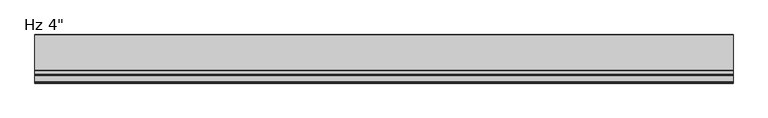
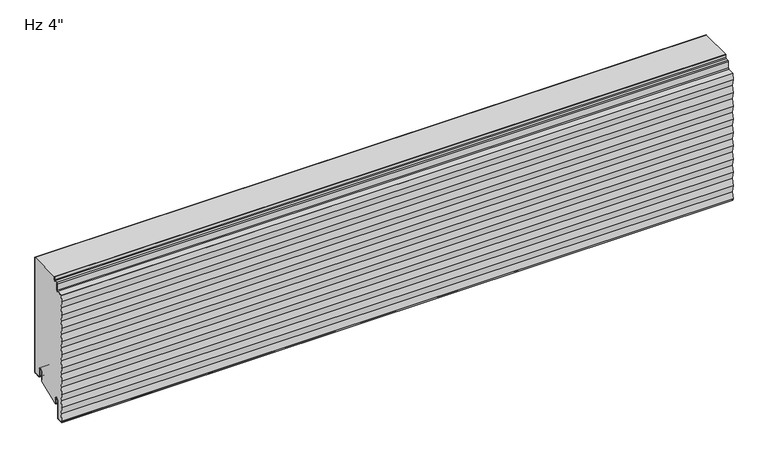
"""IFC4 building model written with IfcOpenShell, lengths in millimetres: plate geometry."""

from ifc_helpers import new_model, si_unit, point, frame, frame_2d, origin, place, context, project, spatial, polyline, circle_curve, trimmed, segment, composite_curve, outline, extrude, source, transform, mapped, element, save
from ifc_brep_helpers import plane_surface, cylinder_surface, revolved_surface, advanced_brep


def plate_10581ff8(model_context):
    return source(origin(), model_context, "Body", "SolidModel", [
        extrude(outline(composite_curve([segment(trimmed(circle_curve(frame_2d((-21.43125, 19.05)), 4.96875), [point((-16.4625, 19.05))], [point((-26.4, 19.05))], True, "CARTESIAN"), True, "CONTINUOUS"), segment(polyline([(-26.4, 19.05), (-26.4, -3.1323422), (-74.6157227, -23.01875), (-76.2, -23.01875), (-76.2, -13.5080174), (-76.99375, -13.5080174), (-76.7875, -11.9205174)]), True, "CONTINUOUS"), segment(trimmed(circle_curve(frame_2d((-81.75625, -11.9205174)), 4.96875), [point((-76.7875, -11.9205174))], [point((-86.725, -11.9205174))], True, "CARTESIAN"), True, "CONTINUOUS"), segment(polyline([(-86.725, -11.9205174), (-86.725, -50.1038221)]), True, "CONTINUOUS"), segment(trimmed(circle_curve(frame_2d((-88.10625, -50.1038221)), 1.38125), [point((-86.725, -50.1038221))], [point((-88.033961, -51.4831791))], False, "CARTESIAN"), True, "CONTINUOUS"), segment(polyline([(-88.033961, -51.4831791), (-99.146461, -52.0655606)]), True, "CONTINUOUS"), segment(trimmed(circle_curve(frame_2d((-99.21875, -50.6862035)), 1.38125), [point((-99.146461, -52.0655606))], [point((-100.5310452, -51.1171708))], False, "CARTESIAN"), True, "CONTINUOUS"), segment(polyline([(-100.5310452, -51.1171708), (-100.8936034, -48.8511825), (-98.4552034, -33.6111825), (-100.8936034, -18.3711825), (-98.4552034, -3.1311825), (-100.8936034, 12.1088175), (-98.4552034, 27.3488175), (-100.8936034, 42.5888175), (-98.4552034, 57.8288175), (-100.8936034, 73.0688175), (-98.4552034, 88.3088175), (-100.8936034, 103.5488175), (-98.4552034, 118.7888175), (-100.8936034, 134.0288175), (-98.4552034, 149.2688175), (-100.8936034, 164.5088175), (-98.4552034, 179.7488175), (-100.8936034, 194.9888175), (-98.4552034, 210.2288175), (-100.8611926, 225.26625), (-98.81595, 238.0490161), (-85.5895807, 238.7421807)]), True, "CONTINUOUS"), segment(trimmed(circle_curve(frame_2d((-85.725, 241.3261347)), 2.5875), [point((-85.5895807, 238.7421807))], [point((-83.1375, 241.3261347))], True, "CARTESIAN"), True, "CONTINUOUS"), segment(polyline([(-83.1375, 241.3261347), (-83.1375, 255.4824411)]), True, "CONTINUOUS"), segment(trimmed(circle_curve(frame_2d((-81.75625, 255.4824411)), 1.38125), [point((-83.1375, 255.4824411))], [point((-81.828539, 256.8617981))], False, "CARTESIAN"), True, "CONTINUOUS"), segment(polyline([(-81.828539, 256.8617981), (-76.0645807, 257.1638744)]), True, "CONTINUOUS"), segment(trimmed(circle_curve(frame_2d((-76.2, 259.7478283)), 2.5875), [point((-76.0645807, 257.1638744))], [point((-73.6125, 259.7478283))], True, "CARTESIAN"), True, "CONTINUOUS"), segment(polyline([(-73.6125, 259.7478283), (-73.6125, 266.4), (-1.0, 266.4), (-1.0, 3.175)]), True, "CONTINUOUS"), segment(trimmed(circle_curve(frame_2d((-2.38125, 3.175)), 1.38125), [point((-1.0, 3.175))], [point((-2.38125, 1.79375))], False, "CARTESIAN"), True, "CONTINUOUS"), segment(polyline([(-2.38125, 1.79375), (-15.08125, 1.79375)]), True, "CONTINUOUS"), segment(trimmed(circle_curve(frame_2d((-15.08125, 3.175)), 1.38125), [point((-15.08125, 1.79375))], [point((-16.4625, 3.175))], False, "CARTESIAN"), True, "CONTINUOUS"), segment(polyline([(-16.4625, 3.175), (-16.4625, 19.05)]), True, "CONTINUOUS")], self_intersect=False)), frame((-730.0, 0.0, 0.0), z_axis=(1.0, 0.0, 0.0), x_axis=(0.0, 1.0, 0.0)), (0.0, 0.0, 1.0), 1460.0),
        extrude(outline(composite_curve([segment(polyline([(-25.4, 0.79375), (-26.4, 0.79375), (-26.4, 19.05)]), True, "CONTINUOUS"), segment(trimmed(circle_curve(frame_2d((-21.43125, 19.05)), 4.96875), [point((-26.4, 19.05))], [point((-16.4625, 19.05))], False, "CARTESIAN"), True, "CONTINUOUS"), segment(polyline([(-16.4625, 19.05), (-16.4625, 3.175)]), True, "CONTINUOUS"), segment(trimmed(circle_curve(frame_2d((-15.08125, 3.175)), 1.38125), [point((-16.4625, 3.175))], [point((-15.08125, 1.79375))], True, "CARTESIAN"), True, "CONTINUOUS"), segment(polyline([(-15.08125, 1.79375), (-2.38125, 1.79375)]), True, "CONTINUOUS"), segment(trimmed(circle_curve(frame_2d((-2.38125, 3.175)), 1.38125), [point((-2.38125, 1.79375))], [point((-1.0, 3.175))], True, "CARTESIAN"), True, "CONTINUOUS"), segment(polyline([(-1.0, 3.175), (-1.0, 266.4), (0.0, 266.4), (0.0, 3.175)]), True, "CONTINUOUS"), segment(trimmed(circle_curve(frame_2d((-2.38125, 3.175)), 2.38125), [point((0.0, 3.175))], [point((-2.38125, 0.79375))], False, "CARTESIAN"), True, "CONTINUOUS"), segment(polyline([(-2.38125, 0.79375), (-15.08125, 0.79375)]), True, "CONTINUOUS"), segment(trimmed(circle_curve(frame_2d((-15.08125, 3.175)), 2.38125), [point((-15.08125, 0.79375))], [point((-17.4625, 3.175))], False, "CARTESIAN"), True, "CONTINUOUS"), segment(polyline([(-17.4625, 3.175), (-17.4625, 19.05)]), True, "CONTINUOUS"), segment(trimmed(circle_curve(frame_2d((-21.43125, 19.05)), 3.96875), [point((-17.4625, 19.05))], [point((-25.4, 19.05))], True, "CARTESIAN"), True, "CONTINUOUS"), segment(polyline([(-25.4, 19.05), (-25.4, 0.79375)]), True, "CONTINUOUS")], self_intersect=False)), frame((-730.0, 0.0, 0.0), z_axis=(1.0, 0.0, 0.0), x_axis=(0.0, 1.0, 0.0)), (0.0, 0.0, 1.0), 1460.0),
        advanced_brep(
        [(-730.0, -74.6125, 266.4), (730.0, -74.6125, 266.4), (730.0, -73.6125, 266.4), (-730.0, -73.6125, 266.4), (-730.0, -76.2, -23.2314549), (-730.0, -77.7875, -23.2314549), (-730.0, -77.7875, -11.9205174), (-730.0, -85.725, -11.9205174), (-730.0, -85.725, -50.1038221), (-730.0, -87.981625, -52.4818086), (-730.0, -100.913818, -53.1595562), (-730.0, -101.6, -48.8709186), (-730.0, -99.1616, -33.6309186), (-730.0, -101.6, -18.3909186), (-730.0, -99.1616, -3.1509186), (-730.0, -101.6, 12.0890814), (-730.0, -99.1616, 27.3290814), (-730.0, -101.6, 42.5690814), (-730.0, -99.1616, 57.8090814), (-730.0, -101.6, 73.0490814), (-730.0, -99.1616, 88.2890814), (-730.0, -101.6, 103.5290814), (-730.0, -99.1616, 118.7690814), (-730.0, -101.6, 134.0090814), (-730.0, -99.1616, 149.2490814), (-730.0, -101.6, 164.4890814), (-730.0, -99.1616, 179.7290814), (-730.0, -101.6, 194.9690814), (-730.0, -99.1616, 210.2090814), (-730.0, -101.5837946, 225.3477976), (-730.0, -99.4289309, 239.0182635), (-730.0, -85.6419167, 239.7408103), (-730.0, -84.1375, 241.3261347), (-730.0, -84.1375, 255.4824411), (-730.0, -81.880875, 257.8604276), (-730.0, -76.1169167, 258.1625039), (-730.0, -74.6125, 259.7478283), (-730.0, -73.6125, 259.7478283), (-730.0, -76.0645807, 257.1638744), (-730.0, -81.828539, 256.8617981), (-730.0, -83.1375, 255.4824411), (-730.0, -83.1375, 241.3261347), (-730.0, -85.5895807, 238.7421807), (-730.0, -98.5692225, 238.0619465), (-730.0, -100.5872809, 225.4490814), (-730.0, -98.1488809, 210.2090814), (-730.0, -100.5872809, 194.9690814), (-730.0, -98.1488809, 179.7290814), (-730.0, -100.5872809, 164.4890814), (-730.0, -98.1488809, 149.2490814), (-730.0, -100.5872809, 134.0090814), (-730.0, -98.1488809, 118.7690814), (-730.0, -100.5872809, 103.5290814), (-730.0, -98.1488809, 88.2890814), (-730.0, -100.5872809, 73.0490814), (-730.0, -98.1488809, 57.8090814), (-730.0, -100.5872809, 42.5690814), (-730.0, -98.1488809, 27.3290814), (-730.0, -100.5872809, 12.0890814), (-730.0, -98.1488809, -3.1509186), (-730.0, -100.5872809, -18.3909186), (-730.0, -98.1488809, -33.6309186), (-730.0, -100.5872809, -48.8709186), (-730.0, -100.0684074, -52.1138777), (-730.0, -88.033961, -51.4831791), (-730.0, -86.725, -50.1038221), (-730.0, -86.725, -11.9205174), (-730.0, -76.7875, -11.9205174), (-730.0, -76.99375, -13.5080174), (-730.0, -76.2, -13.5080174), (730.0, -76.2, -23.2314549), (730.0, -76.2, -13.5080174), (730.0, -76.99375, -13.5080174), (730.0, -76.7875, -11.9205174), (730.0, -86.725, -11.9205174), (730.0, -86.725, -50.1038221), (730.0, -88.033961, -51.4831791), (730.0, -100.0684074, -52.1138777), (730.0, -100.5872809, -48.8709186), (730.0, -98.1488809, -33.6309186), (730.0, -100.5872809, -18.3909186), (730.0, -98.1488809, -3.1509186), (730.0, -100.5872809, 12.0890814), (730.0, -98.1488809, 27.3290814), (730.0, -100.5872809, 42.5690814), (730.0, -98.1488809, 57.8090814), (730.0, -100.5872809, 73.0490814), (730.0, -98.1488809, 88.2890814), (730.0, -100.5872809, 103.5290814), (730.0, -98.1488809, 118.7690814), (730.0, -100.5872809, 134.0090814), (730.0, -98.1488809, 149.2490814), (730.0, -100.5872809, 164.4890814), (730.0, -98.1488809, 179.7290814), (730.0, -100.5872809, 194.9690814), (730.0, -98.1488809, 210.2090814), (730.0, -100.5710755, 225.3477976), (730.0, -98.5692225, 238.0619465), (730.0, -85.5895807, 238.7421807), (730.0, -83.1375, 241.3261347), (730.0, -83.1375, 255.4824411), (730.0, -81.828539, 256.8617981), (730.0, -76.0645807, 257.1638744), (730.0, -73.6125, 259.7478283), (730.0, -74.6125, 259.7478283), (730.0, -76.1169167, 258.1625039), (730.0, -81.880875, 257.8604276), (730.0, -84.1375, 255.4824411), (730.0, -84.1375, 241.3261347), (730.0, -85.6419167, 239.7408103), (730.0, -99.4289309, 239.0182635), (730.0, -101.6, 225.4490814), (730.0, -99.1616, 210.2090814), (730.0, -101.6, 194.9690814), (730.0, -99.1616, 179.7290814), (730.0, -101.6, 164.4890814), (730.0, -99.1616, 149.2490814), (730.0, -101.6, 134.0090814), (730.0, -99.1616, 118.7690814), (730.0, -101.6, 103.5290814), (730.0, -99.1616, 88.2890814), (730.0, -101.6, 73.0490814), (730.0, -99.1616, 57.8090814), (730.0, -101.6, 42.5690814), (730.0, -99.1616, 27.3290814), (730.0, -101.6, 12.0890814), (730.0, -99.1616, -3.1509186), (730.0, -101.6, -18.3909186), (730.0, -99.1616, -33.6309186), (730.0, -101.6, -48.8709186), (730.0, -100.913818, -53.1595562), (730.0, -87.981625, -52.4818086), (730.0, -85.725, -50.1038221), (730.0, -85.725, -11.9205174), (730.0, -77.7875, -11.9205174), (730.0, -77.7875, -23.2314549)],
        [
            (0, 1),
            (1, 2),
            (2, 3),
            (3, 0),
            (4, 5, circle_curve(frame((-730.0, -76.99375, -23.2314549), z_axis=(-1.0, 0.0, 0.0), x_axis=(0.0, 0.0, 1.0)), 0.79375)),
            (5, 6),
            (6, 7, circle_curve(frame((-730.0, -81.75625, -11.9205174), z_axis=(1.0, 0.0, 0.0), x_axis=(0.0, 0.0, 1.0)), 3.96875)),
            (7, 8),
            (8, 9, circle_curve(frame((-730.0, -88.10625, -50.1038221), z_axis=(-1.0, 0.0, 0.0), x_axis=(0.0, 0.0, 1.0)), 2.38125)),
            (9, 10),
            (10, 11),
            (11, 12),
            (12, 13),
            (13, 14),
            (14, 15),
            (15, 16),
            (16, 17),
            (17, 18),
            (18, 19),
            (19, 20),
            (20, 21),
            (21, 22),
            (22, 23),
            (23, 24),
            (24, 25),
            (25, 26),
            (26, 27),
            (27, 28),
            (28, 29),
            (29, 30),
            (30, 31),
            (31, 32, circle_curve(frame((-730.0, -85.725, 241.3261347), z_axis=(1.0, 0.0, 0.0), x_axis=(0.0, 0.0, 1.0)), 1.5875)),
            (32, 33),
            (33, 34, circle_curve(frame((-730.0, -81.75625, 255.4824411), z_axis=(-1.0, 0.0, 0.0), x_axis=(0.0, 0.0, 1.0)), 2.38125)),
            (34, 35),
            (35, 36, circle_curve(frame((-730.0, -76.2, 259.7478283), z_axis=(1.0, 0.0, 0.0), x_axis=(0.0, 0.0, 1.0)), 1.5875)),
            (36, 0),
            (3, 37),
            (37, 38, circle_curve(frame((-730.0, -76.2, 259.7478283), z_axis=(-1.0, 0.0, 0.0), x_axis=(0.0, 0.0, 1.0)), 2.5875)),
            (38, 39),
            (39, 40, circle_curve(frame((-730.0, -81.75625, 255.4824411), z_axis=(1.0, 0.0, 0.0), x_axis=(0.0, 0.0, 1.0)), 1.38125)),
            (40, 41),
            (41, 42, circle_curve(frame((-730.0, -85.725, 241.3261347), z_axis=(-1.0, 0.0, 0.0), x_axis=(0.0, 0.0, 1.0)), 2.5875)),
            (42, 43),
            (43, 44),
            (44, 45),
            (45, 46),
            (46, 47),
            (47, 48),
            (48, 49),
            (49, 50),
            (50, 51),
            (51, 52),
            (52, 53),
            (53, 54),
            (54, 55),
            (55, 56),
            (56, 57),
            (57, 58),
            (58, 59),
            (59, 60),
            (60, 61),
            (61, 62),
            (62, 63),
            (63, 64),
            (64, 65, circle_curve(frame((-730.0, -88.10625, -50.1038221), z_axis=(1.0, 0.0, 0.0), x_axis=(0.0, 0.0, 1.0)), 1.38125)),
            (65, 66),
            (66, 67, circle_curve(frame((-730.0, -81.75625, -11.9205174), z_axis=(-1.0, 0.0, 0.0), x_axis=(0.0, 0.0, 1.0)), 4.96875)),
            (67, 68),
            (68, 69),
            (69, 4),
            (70, 71),
            (71, 72),
            (72, 73),
            (73, 74, circle_curve(frame((730.0, -81.75625, -11.9205174), z_axis=(1.0, 0.0, 0.0), x_axis=(0.0, 0.0, 1.0)), 4.96875)),
            (74, 75),
            (75, 76, circle_curve(frame((730.0, -88.10625, -50.1038221), z_axis=(-1.0, 0.0, 0.0), x_axis=(0.0, 0.0, 1.0)), 1.38125)),
            (76, 77),
            (77, 78),
            (78, 79),
            (79, 80),
            (80, 81),
            (81, 82),
            (82, 83),
            (83, 84),
            (84, 85),
            (85, 86),
            (86, 87),
            (87, 88),
            (88, 89),
            (89, 90),
            (90, 91),
            (91, 92),
            (92, 93),
            (93, 94),
            (94, 95),
            (95, 96),
            (96, 97),
            (97, 98),
            (98, 99, circle_curve(frame((730.0, -85.725, 241.3261347), z_axis=(1.0, 0.0, 0.0), x_axis=(0.0, 0.0, 1.0)), 2.5875)),
            (99, 100),
            (100, 101, circle_curve(frame((730.0, -81.75625, 255.4824411), z_axis=(-1.0, 0.0, 0.0), x_axis=(0.0, 0.0, 1.0)), 1.38125)),
            (101, 102),
            (102, 103, circle_curve(frame((730.0, -76.2, 259.7478283), z_axis=(1.0, 0.0, 0.0), x_axis=(0.0, 0.0, 1.0)), 2.5875)),
            (103, 2),
            (1, 104),
            (104, 105, circle_curve(frame((730.0, -76.2, 259.7478283), z_axis=(-1.0, 0.0, 0.0), x_axis=(0.0, 0.0, 1.0)), 1.5875)),
            (105, 106),
            (106, 107, circle_curve(frame((730.0, -81.75625, 255.4824411), z_axis=(1.0, 0.0, 0.0), x_axis=(0.0, 0.0, 1.0)), 2.38125)),
            (107, 108),
            (108, 109, circle_curve(frame((730.0, -85.725, 241.3261347), z_axis=(-1.0, 0.0, 0.0), x_axis=(0.0, 0.0, 1.0)), 1.5875)),
            (109, 110),
            (110, 111),
            (111, 112),
            (112, 113),
            (113, 114),
            (114, 115),
            (115, 116),
            (116, 117),
            (117, 118),
            (118, 119),
            (119, 120),
            (120, 121),
            (121, 122),
            (122, 123),
            (123, 124),
            (124, 125),
            (125, 126),
            (126, 127),
            (127, 128),
            (128, 129),
            (129, 130),
            (130, 131),
            (131, 132, circle_curve(frame((730.0, -88.10625, -50.1038221), z_axis=(1.0, 0.0, 0.0), x_axis=(0.0, 0.0, 1.0)), 2.38125)),
            (132, 133),
            (133, 134, circle_curve(frame((730.0, -81.75625, -11.9205174), z_axis=(-1.0, 0.0, 0.0), x_axis=(0.0, 0.0, 1.0)), 3.96875)),
            (134, 135),
            (135, 70, circle_curve(frame((730.0, -76.99375, -23.2314549), z_axis=(1.0, 0.0, 0.0), x_axis=(0.0, 0.0, 1.0)), 0.79375)),
            (63, 77),
            (76, 64),
            (75, 65),
            (74, 66),
            (73, 67),
            (68, 72),
            (71, 69),
            (41, 99),
            (98, 42),
            (39, 101),
            (100, 40),
            (37, 103),
            (102, 38),
            (36, 104),
            (34, 106),
            (105, 35),
            (32, 108),
            (107, 33),
            (31, 109),
            (9, 131),
            (130, 10),
            (7, 133),
            (132, 8),
            (5, 135),
            (134, 6),
            (70, 4),
            (48, 92),
            (91, 49),
            (90, 50),
            (89, 51),
            (30, 110),
            (97, 43),
            (28, 112),
            (111, 29),
            (44, 96),
            (95, 45),
            (94, 46),
            (93, 47),
            (25, 115),
            (114, 26),
            (113, 27),
            (24, 116),
            (22, 118),
            (117, 23),
            (20, 120),
            (119, 21),
            (18, 122),
            (121, 19),
            (16, 124),
            (123, 17),
            (14, 126),
            (125, 15),
            (12, 128),
            (127, 13),
            (129, 11),
            (61, 79),
            (78, 62),
            (59, 81),
            (80, 60),
            (57, 83),
            (82, 58),
            (55, 85),
            (84, 56),
            (53, 87),
            (86, 54),
            (88, 52),
        ],
        [
            plane_surface(frame((730.0, 10.0, 266.4), z_axis=(0.0, 0.0, 1.0), x_axis=(-1.0, 0.0, 0.0))),
            plane_surface(frame((-730.0, -101.6, 152.4), z_axis=(-1.0, 0.0, 0.0), x_axis=(0.0, -1.0, 0.0))),
            plane_surface(frame((730.0, -101.6, 152.4), z_axis=(1.0, 0.0, 0.0), x_axis=(0.0, -1.0, 0.0))),
            plane_surface(frame((-730.0, -88.033961, -51.4831791), z_axis=(0.0, -0.052335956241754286, 0.9986295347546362), x_axis=(1.0, 0.0, 0.0))),
            revolved_surface(polyline([(730.0, -88.10625, -48.7225721), (-730.0, -88.10625, -48.7225721)]), (-730.0, -88.10625, -50.1038221), (1.0, 0.0, 0.0)),
            plane_surface(frame((-730.0, -86.725, -11.9205174), z_axis=(0.0, -1.0, 0.0), x_axis=(1.0, 0.0, 0.0))),
            cylinder_surface(frame((-730.0, -81.75625, -11.9205174), z_axis=(-1.0, 0.0, 0.0), x_axis=(0.0, 0.0, 1.0)), 4.96875),
            plane_surface(frame((-730.0, -76.2, -13.5080174), z_axis=(0.0, 0.0, 1.0), x_axis=(1.0, 0.0, 0.0))),
            plane_surface(frame((-730.0, -76.99375, -13.5080174), z_axis=(0.0, 0.9916655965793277, -0.12883844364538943), x_axis=(1.0, 0.0, 0.0))),
            cylinder_surface(frame((-730.0, -85.725, 241.3261347), z_axis=(-1.0, 0.0, 0.0), x_axis=(0.0, 0.0, 1.0)), 2.5875),
            revolved_surface(polyline([(730.0, -81.75625, 256.8636911), (-730.0, -81.75625, 256.8636911)]), (-730.0, -81.75625, 255.4824411), (1.0, 0.0, 0.0)),
            cylinder_surface(frame((-730.0, -76.2, 259.7478283), z_axis=(-1.0, 0.0, 0.0), x_axis=(0.0, 0.0, 1.0)), 2.5875),
            plane_surface(frame((-730.0, -81.828539, 256.8617981), z_axis=(0.0, 0.0523359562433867, -0.9986295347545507), x_axis=(1.0, 0.0, 0.0))),
            plane_surface(frame((-730.0, -83.1375, 241.3261347), z_axis=(0.0, 1.0, 0.0), x_axis=(1.0, 0.0, 0.0))),
            plane_surface(frame((-730.0, -73.6125, 259.7478283), z_axis=(0.0, 1.0, 0.0), x_axis=(1.0, 0.0, 0.0))),
            plane_surface(frame((-730.0, -74.6125, 274.6232326), z_axis=(0.0, -1.0, 0.0), x_axis=(1.0, 0.0, 0.0))),
            plane_surface(frame((-730.0, -76.1169167, 258.1625039), z_axis=(0.0, -0.052335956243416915, 0.9986295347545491), x_axis=(1.0, 0.0, 0.0))),
            revolved_surface(polyline([(730.0, -76.2, 261.33532829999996), (-730.0, -76.2, 261.33532829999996)]), (-730.0, -76.2, 259.7478283), (1.0, 0.0, 0.0)),
            plane_surface(frame((-730.0, -84.1375, 255.4824411), z_axis=(0.0, -1.0, 0.0), x_axis=(1.0, 0.0, 0.0))),
            revolved_surface(polyline([(730.0, -85.725, 242.91363470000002), (-730.0, -85.725, 242.91363470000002)]), (-730.0, -85.725, 241.3261347), (1.0, 0.0, 0.0)),
            cylinder_surface(frame((-730.0, -81.75625, 255.4824411), z_axis=(-1.0, 0.0, 0.0), x_axis=(0.0, 0.0, 1.0)), 2.38125),
            plane_surface(frame((-730.0, -100.913818, -53.1595562), z_axis=(0.0, 0.052335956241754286, -0.9986295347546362), x_axis=(1.0, 0.0, 0.0))),
            plane_surface(frame((-730.0, -85.725, -50.1038221), z_axis=(0.0, 1.0, 0.0), x_axis=(1.0, 0.0, 0.0))),
            plane_surface(frame((-730.0, -77.7875, -11.9205174), z_axis=(0.0, -1.0, 0.0), x_axis=(1.0, 0.0, 0.0))),
            revolved_surface(polyline([(730.0, -81.75625, -7.9517674), (-730.0, -81.75625, -7.9517674)]), (-730.0, -81.75625, -11.9205174), (1.0, 0.0, 0.0)),
            cylinder_surface(frame((-730.0, -88.10625, -50.1038221), z_axis=(-1.0, 0.0, 0.0), x_axis=(0.0, 0.0, 1.0)), 2.38125),
            plane_surface(frame((-730.0, -76.2, -23.2314549), z_axis=(0.0, 1.0, 0.0), x_axis=(1.0, 0.0, 0.0))),
            cylinder_surface(frame((-730.0, -76.99375, -23.2314549), z_axis=(-1.0, 0.0, 0.0), x_axis=(0.0, 0.0, 1.0)), 0.79375),
            plane_surface(frame((-730.0, -98.1488809, 149.2490814), z_axis=(0.0, 0.9874406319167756, 0.15799050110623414), x_axis=(1.0, 0.0, 0.0))),
            plane_surface(frame((-730.0, -100.5872809, 134.0090814), z_axis=(0.0, 0.987440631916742, -0.15799050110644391), x_axis=(1.0, 0.0, 0.0))),
            plane_surface(frame((-730.0, -98.1488809, 118.7690814), z_axis=(0.0, 0.987440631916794, 0.1579905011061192), x_axis=(1.0, 0.0, 0.0))),
            plane_surface(frame((-730.0, -85.6419167, 239.7408103), z_axis=(0.0, -0.052335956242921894, 0.998629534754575), x_axis=(1.0, 0.0, 0.0))),
            plane_surface(frame((-730.0, -98.5692225, 238.0619465), z_axis=(0.0, 0.05233595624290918, -0.9986295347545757), x_axis=(1.0, 0.0, 0.0))),
            plane_surface(frame((-730.0, -101.5837946, 225.3477976), z_axis=(0.0, -0.9874406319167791, -0.15799050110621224), x_axis=(1.0, 0.0, 0.0))),
            plane_surface(frame((-730.0, -98.1488809, 210.2090814), z_axis=(0.0, 0.9874406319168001, 0.15799050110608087), x_axis=(1.0, 0.0, 0.0))),
            plane_surface(frame((-730.0, -100.5872809, 194.9690814), z_axis=(0.0, 0.9874406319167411, -0.15799050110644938), x_axis=(1.0, 0.0, 0.0))),
            plane_surface(frame((-730.0, -98.1488809, 179.7290814), z_axis=(0.0, 0.987440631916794, 0.1579905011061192), x_axis=(1.0, 0.0, 0.0))),
            plane_surface(frame((-730.0, -100.5872809, 164.4890814), z_axis=(0.0, 0.987440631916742, -0.15799050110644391), x_axis=(1.0, 0.0, 0.0))),
            plane_surface(frame((-730.0, -99.1616, 179.7290814), z_axis=(0.0, -0.9874406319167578, 0.15799050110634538), x_axis=(1.0, 0.0, 0.0))),
            plane_surface(frame((-730.0, -101.6, 194.9690814), z_axis=(0.0, -0.9874406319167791, -0.15799050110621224), x_axis=(1.0, 0.0, 0.0))),
            plane_surface(frame((-730.0, -99.1616, 210.2090814), z_axis=(0.0, -0.9874406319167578, 0.15799050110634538), x_axis=(1.0, 0.0, 0.0))),
            plane_surface(frame((-730.0, -100.5872809, 225.4490814), z_axis=(0.0, 0.9874406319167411, -0.15799050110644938), x_axis=(1.0, 0.0, 0.0))),
            plane_surface(frame((-730.0, -99.4289309, 239.0182635), z_axis=(0.0, -0.9874406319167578, 0.15799050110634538), x_axis=(1.0, 0.0, 0.0))),
            plane_surface(frame((-730.0, -101.6, 164.4890814), z_axis=(0.0, -0.9874406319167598, -0.15799050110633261), x_axis=(1.0, 0.0, 0.0))),
            plane_surface(frame((-730.0, -101.6, 134.0090814), z_axis=(0.0, -0.9874406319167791, -0.15799050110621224), x_axis=(1.0, 0.0, 0.0))),
            plane_surface(frame((-730.0, -99.1616, 149.2490814), z_axis=(0.0, -0.9874406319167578, 0.15799050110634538), x_axis=(1.0, 0.0, 0.0))),
            plane_surface(frame((-730.0, -101.6, 103.5290814), z_axis=(0.0, -0.9874406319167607, -0.15799050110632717), x_axis=(1.0, 0.0, 0.0))),
            plane_surface(frame((-730.0, -101.6, 73.0490814), z_axis=(0.0, -0.9874406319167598, -0.15799050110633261), x_axis=(1.0, 0.0, 0.0))),
            plane_surface(frame((-730.0, -99.1616, 88.2890814), z_axis=(0.0, -0.9874406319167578, 0.15799050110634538), x_axis=(1.0, 0.0, 0.0))),
            plane_surface(frame((-730.0, -99.1616, 118.7690814), z_axis=(0.0, -0.9874406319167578, 0.15799050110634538), x_axis=(1.0, 0.0, 0.0))),
            plane_surface(frame((-730.0, -101.6, 42.5690814), z_axis=(0.0, -0.9874406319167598, -0.15799050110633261), x_axis=(1.0, 0.0, 0.0))),
            plane_surface(frame((-730.0, -101.6, 12.0890814), z_axis=(0.0, -0.9874406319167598, -0.15799050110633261), x_axis=(1.0, 0.0, 0.0))),
            plane_surface(frame((-730.0, -99.1616, 27.3290814), z_axis=(0.0, -0.9874406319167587, 0.15799050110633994), x_axis=(1.0, 0.0, 0.0))),
            plane_surface(frame((-730.0, -99.1616, 57.8090814), z_axis=(0.0, -0.9874406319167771, 0.157990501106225), x_axis=(1.0, 0.0, 0.0))),
            plane_surface(frame((-730.0, -101.6, -18.3909186), z_axis=(0.0, -0.9874406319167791, -0.15799050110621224), x_axis=(1.0, 0.0, 0.0))),
            plane_surface(frame((-730.0, -101.6, -48.8709186), z_axis=(0.0, -0.9874406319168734, -0.15799050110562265), x_axis=(1.0, 0.0, 0.0))),
            plane_surface(frame((-730.0, -99.1616, -33.6309186), z_axis=(0.0, -0.9874406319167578, 0.15799050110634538), x_axis=(1.0, 0.0, 0.0))),
            plane_surface(frame((-730.0, -99.1616, -3.1509186), z_axis=(0.0, -0.9874406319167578, 0.15799050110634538), x_axis=(1.0, 0.0, 0.0))),
            plane_surface(frame((-730.0, -100.5872809, -48.8709186), z_axis=(0.0, 0.9874406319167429, -0.15799050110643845), x_axis=(1.0, 0.0, 0.0))),
            plane_surface(frame((-730.0, -100.5872809, -18.3909186), z_axis=(0.0, 0.987440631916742, -0.15799050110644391), x_axis=(1.0, 0.0, 0.0))),
            plane_surface(frame((-730.0, -98.1488809, -33.6309186), z_axis=(0.0, 0.987440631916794, 0.1579905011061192), x_axis=(1.0, 0.0, 0.0))),
            plane_surface(frame((-730.0, -100.0684074, -52.1138777), z_axis=(0.0, 0.987440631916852, 0.1579905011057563), x_axis=(1.0, 0.0, 0.0))),
            plane_surface(frame((-730.0, -100.5872809, 12.0890814), z_axis=(0.0, 0.987440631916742, -0.15799050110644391), x_axis=(1.0, 0.0, 0.0))),
            plane_surface(frame((-730.0, -100.5872809, 42.5690814), z_axis=(0.0, 0.9874406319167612, -0.1579905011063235), x_axis=(1.0, 0.0, 0.0))),
            plane_surface(frame((-730.0, -98.1488809, 27.3290814), z_axis=(0.0, 0.9874406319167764, 0.15799050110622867), x_axis=(1.0, 0.0, 0.0))),
            plane_surface(frame((-730.0, -98.1488809, -3.1509186), z_axis=(0.0, 0.9874406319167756, 0.15799050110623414), x_axis=(1.0, 0.0, 0.0))),
            plane_surface(frame((-730.0, -100.5872809, 73.0490814), z_axis=(0.0, 0.9874406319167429, -0.15799050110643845), x_axis=(1.0, 0.0, 0.0))),
            plane_surface(frame((-730.0, -100.5872809, 103.5290814), z_axis=(0.0, 0.987440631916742, -0.15799050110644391), x_axis=(1.0, 0.0, 0.0))),
            plane_surface(frame((-730.0, -98.1488809, 88.2890814), z_axis=(0.0, 0.9874406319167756, 0.15799050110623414), x_axis=(1.0, 0.0, 0.0))),
            plane_surface(frame((-730.0, -98.1488809, 57.8090814), z_axis=(0.0, 0.9874406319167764, 0.15799050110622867), x_axis=(1.0, 0.0, 0.0))),
        ],
        [
            (0, [[1, 2, 3, 4]]),
            (1, [[5, 6, 7, 8, 9, 10, 11, 12, 13, 14, 15, 16, 17, 18, 19, 20, 21, 22, 23, 24, 25, 26, 27, 28, 29, 30, 31, 32, 33, 34, 35, 36, 37, -4, 38, 39, 40, 41, 42, 43, 44, 45, 46, 47, 48, 49, 50, 51, 52, 53, 54, 55, 56, 57, 58, 59, 60, 61, 62, 63, 64, 65, 66, 67, 68, 69, 70, 71]]),
            (2, [[72, 73, 74, 75, 76, 77, 78, 79, 80, 81, 82, 83, 84, 85, 86, 87, 88, 89, 90, 91, 92, 93, 94, 95, 96, 97, 98, 99, 100, 101, 102, 103, 104, 105, -2, 106, 107, 108, 109, 110, 111, 112, 113, 114, 115, 116, 117, 118, 119, 120, 121, 122, 123, 124, 125, 126, 127, 128, 129, 130, 131, 132, 133, 134, 135, 136, 137, 138]]),
            (3, [[139, -78, 140, -65]]),
            (4, [[-140, -77, 141, -66]]),
            (5, [[-141, -76, 142, -67]]),
            (6, [[-142, -75, 143, -68]]),
            (7, [[144, -73, 145, -70]]),
            (8, [[-143, -74, -144, -69]]),
            (9, [[146, -100, 147, -43]]),
            (10, [[148, -102, 149, -41]]),
            (11, [[150, -104, 151, -39]]),
            (12, [[-151, -103, -148, -40]]),
            (13, [[-149, -101, -146, -42]]),
            (14, [[-38, -3, -105, -150]]),
            (15, [[-106, -1, -37, 152]]),
            (16, [[153, -108, 154, -35]]),
            (17, [[-154, -107, -152, -36]]),
            (18, [[155, -110, 156, -33]]),
            (19, [[157, -111, -155, -32]]),
            (20, [[-156, -109, -153, -34]]),
            (21, [[158, -133, 159, -10]]),
            (22, [[160, -135, 161, -8]]),
            (23, [[162, -137, 163, -6]]),
            (24, [[-163, -136, -160, -7]]),
            (25, [[-161, -134, -158, -9]]),
            (26, [[-145, -72, 164, -71]]),
            (27, [[-164, -138, -162, -5]]),
            (28, [[165, -93, 166, -50]]),
            (29, [[-166, -92, 167, -51]]),
            (30, [[-167, -91, 168, -52]]),
            (31, [[169, -112, -157, -31]]),
            (32, [[-147, -99, 170, -44]]),
            (33, [[171, -114, 172, -29]]),
            (34, [[173, -97, 174, -46]]),
            (35, [[-174, -96, 175, -47]]),
            (36, [[-175, -95, 176, -48]]),
            (37, [[-176, -94, -165, -49]]),
            (38, [[177, -117, 178, -26]]),
            (39, [[-178, -116, 179, -27]]),
            (40, [[-179, -115, -171, -28]]),
            (41, [[-170, -98, -173, -45]]),
            (42, [[-172, -113, -169, -30]]),
            (43, [[180, -118, -177, -25]]),
            (44, [[181, -120, 182, -23]]),
            (45, [[-182, -119, -180, -24]]),
            (46, [[183, -122, 184, -21]]),
            (47, [[185, -124, 186, -19]]),
            (48, [[-186, -123, -183, -20]]),
            (49, [[-184, -121, -181, -22]]),
            (50, [[187, -126, 188, -17]]),
            (51, [[189, -128, 190, -15]]),
            (52, [[-190, -127, -187, -16]]),
            (53, [[-188, -125, -185, -18]]),
            (54, [[191, -130, 192, -13]]),
            (55, [[-159, -132, 193, -11]]),
            (56, [[-193, -131, -191, -12]]),
            (57, [[-192, -129, -189, -14]]),
            (58, [[194, -80, 195, -63]]),
            (59, [[196, -82, 197, -61]]),
            (60, [[-197, -81, -194, -62]]),
            (61, [[-195, -79, -139, -64]]),
            (62, [[198, -84, 199, -59]]),
            (63, [[200, -86, 201, -57]]),
            (64, [[-201, -85, -198, -58]]),
            (65, [[-199, -83, -196, -60]]),
            (66, [[202, -88, 203, -55]]),
            (67, [[-168, -90, 204, -53]]),
            (68, [[-204, -89, -202, -54]]),
            (69, [[-203, -87, -200, -56]]),
        ],
    ),
    ])


if __name__ == "__main__":
    model = new_model("IFC4")
    model_context = context("Model", 3, world=origin())
    ifc_project = project(units=[si_unit("LENGTHUNIT", "METRE", prefix="MILLI")], contexts=[model_context])
    site = spatial("IfcSite", under=ifc_project)
    building = spatial("IfcBuilding", under=site)
    placement = place(None, origin())
    plate_shape = plate_10581ff8(model_context)
    element("IfcPlate", 1, ObjectType="KIP-12-DWHR-R19-CP-Hz-S : Hz 4\"", at=placement, inside=building, context=model_context, shape_type="MappedRepresentation", body=[
        mapped(plate_shape, transform((0.0, 0.0, 0.0), x_axis=(1.0, 0.0, 0.0), y_axis=(0.0, 1.0, 0.0), z_axis=(0.0, 0.0, 1.0))),
    ])
    save(model, "model.ifc")
